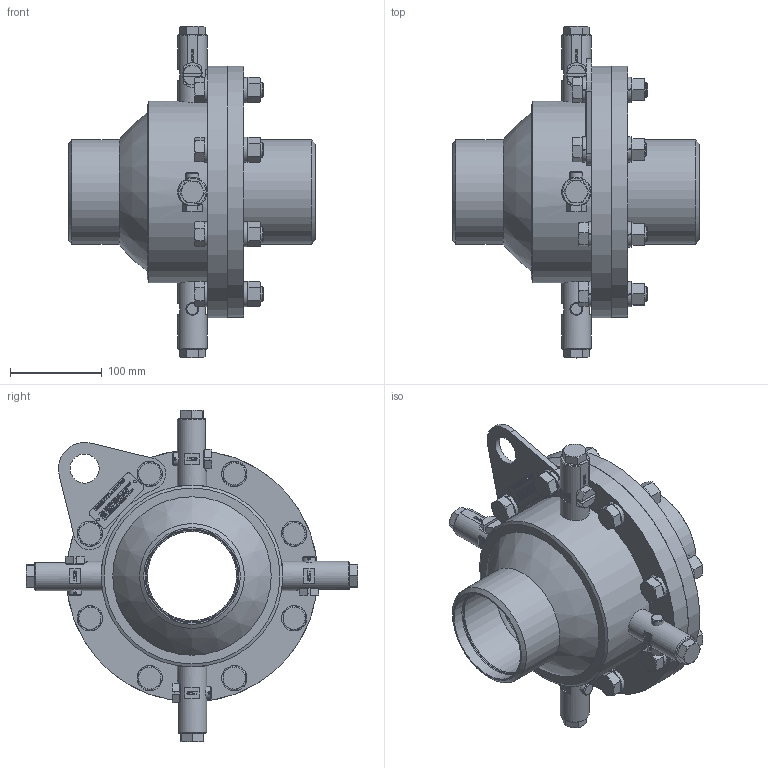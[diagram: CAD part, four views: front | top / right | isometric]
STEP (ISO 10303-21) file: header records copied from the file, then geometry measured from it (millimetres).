
FILE_DESCRIPTION(/* description */ (''),/* implementation_level */ '2;1');
FILE_NAME(/* name */ 'C:\001_Work\Designs\BALL JOINT\4 in Ball Joint Assem(Round PP)-REV1.stp',/* time_stamp */ '2015-02-23T10:17:59-05:00',/* author */ ('mleuck'),/* organization */ (''),/* preprocessor_version */ 'ST-DEVELOPER v15.2',/* originating_system */ 'Autodesk Inventor 2014',/* authorisation */ '');
FILE_SCHEMA (('AUTOMOTIVE_DESIGN { 1 0 10303 214 3 1 1 }'));
Products named in the file (18): Inside Ball-1; Restraining Flange-1; Restraining Ring-1; Body-1; Hard Packing; Soft Packing; ANSI B18.2.3.5M - M16 x 2 x 65; ASME B18.21.2M - 16A; ANSI B 18.2.4.1 M - M16 x 2Style 1; 4in LIFTING LUG; Plug-ROUND(long)-8-1-14; M14x1.5x35Long(FineThread)-shutoffvalve-(8-1-14); M16x2x30 Long-PackingBolt; IFI 512-S - 2.514; Plug Assem(NewRound)(long)(8-1-14); ANSI B18.2.3.5M - M16 x 2 x 70; 4inch- decal; 4 in Ball Joint Assem(Round PP)-REV1
Bounding box: 269.18 x 362.41 x 362.41 mm (x, y, z)
Volume: 4001152.2 mm3; surface area: 856332.3 mm2
Topology: 58 solids, 58 shells, 2663 faces, 6781 edges, 4449 vertices
Faces by surface type: plane 1606, bspline 619, cone 265, cylinder 156, torus 12, sphere 5
Full cylindrical faces by diameter (mm): 2.5 x4, 3 x2, 6 x8, 11.75 x4, 11.836 x4, 13.835 x8, 13.843 x4, 14 x4, 15 x4, 16 x12, 17.78 x2, 18 x16, 31.75 x1, 32 x8, 97.536 x1, 99.085 x1, 99.835 x1, 102.26 x1, 102.273 x1, 114.3 x1, 114.313 x1, 136.906 x1, 155.588 x1, 178.943 x1, 179.375 x3, 179.387 x3, 198.45 x1, 274.637 x1, 274.65 x1
Entity records: 52330 total; most frequent: CARTESIAN_POINT 15447, ORIENTED_EDGE 8028, DIRECTION 5512, EDGE_CURVE 4014, LINE 2780, VECTOR 2780, VERTEX_POINT 2709, EDGE_LOOP 1863
